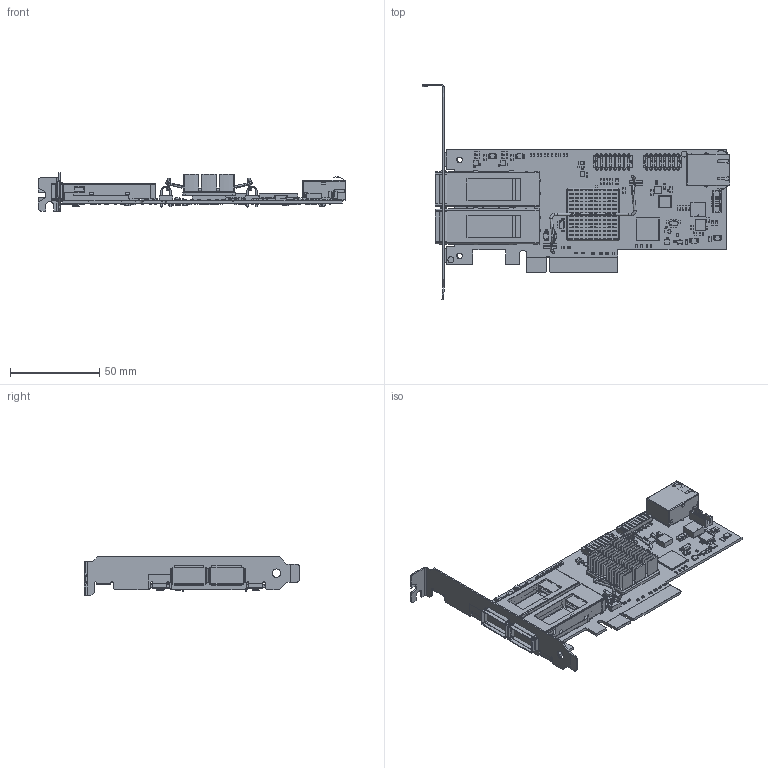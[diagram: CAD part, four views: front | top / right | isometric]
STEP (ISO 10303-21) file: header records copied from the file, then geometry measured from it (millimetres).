
FILE_DESCRIPTION(/* description */ ('PCB Design'),/* implementation_level */ '2;1');
FILE_NAME(/* name */ 'H18_32_2022-04-21',/* time_stamp */ '2022-04-21T10:49:21+03:00',/* author */ (''),/* organization */ (''),/* preprocessor_version */ 'ST-DEVELOPER v16',/* originating_system */ 'allegro_17.2S068',/* authorisation */ '');
FILE_SCHEMA (('AUTOMOTIVE_DESIGN { 1 0 10303 214 3 1 1 }'));
Products named in the file (118): H18_32_2022-04-21; BOARD_OUTLINE; COMPONENTS; OSCCC210P320X250X85-6N; ST1S41PUR; IHLP3232; CON-RJ45-L829-1B1T-43; HS_ANC-D057; FS1-R38-20XX-PLUSCAGE; IHLP2525; CON_3220-10-0300-00; CTS-SMD16; L1206; BGA216C80P15X15_1300X1300X110; SC-70-3; HS_UB30-12B; PCIE_LOW_PROFILE; CON-PCIE-X8-EDGE; SOT-23-3; QFN50P400X400X85-24EP1; R1206; VSOP50P490X110-10N; VSON65P300X300X100-8EP1; SOT89-5; OSCCC210P320X250X85N; TSOP65P490X110-8N; FAN23SV70A; LITEON-LED0603; CC1206; CC0402; R0402; R0603; CC0603; BGA324C100P18X18_1900X1900X270; CAP0402_24; RES0402_24; PCB-FD; Cube003; Cube; product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
Assembly tree (441 placements, depth 5):
  H18_32_2022-04-21
    BOARD_OUTLINE
    COMPONENTS
      OSCCC210P320X250X85-6N
        OSCCC210P320X250X85N
          Cube003
      ST1S41PUR
        ST1S41PUR
          Cube
      IHLP3232
        product
      CON-RJ45-L829-1B1T-43
        Part
          CON-RJ45-RJMG2012211A0FR
      HS_ANC-D057  x2
      FS1-R38-20XX-PLUSCAGE  x2
        FS1-R38-20XX-PLUSCAGE_S
          M_U90_A111_1001_REVG002
          M_FS1_R38_2000_REVG002
      IHLP2525
        ASSEMBLY
          Fillet
          Rectangle
          Extrude
      CON_3220-10-0300-00
        CON_3220-10-0300-00
          801-2195-10-K
          2195SM-PIN
          2195SM-PIN001
          2195SM-PIN002
          2195SM-PIN003
          2195SM-PIN004
          2195SM-PIN005
          2195SM-PIN006
          2195SM-PIN007
          2195SM-PIN008
          2195SM-PIN009
      CTS-SMD16  x2
        CTS-SMD16
          219-8LPST
      L1206  x10
        L1206
          Cube
          Cube001
          Cube002
      BGA216C80P15X15_1300X1300X110
        ASSEMBLY
          BGA216C80P15X15_1300X1300X110
      SC-70-3
        SC-70-3
          COMPOUND001
      HS_UB30-12B
        HS_ub30-12
          ub30-12
          anchor
          anchor001
          Cut_(Solid)
          Cut003_(Solid)
          Cut001_(Solid)
      PCIE_LOW_PROFILE
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Bounding box: 172.65 x 120.87 x 21.59 mm (x, y, z)
Volume: 14716.2 mm3; surface area: 60162.4 mm2
Topology: 1206 solids, 1773 shells, 12965 faces, 36480 edges, 41416 vertices
Faces by surface type: plane 9415, bspline 1985, cylinder 1119, revolution 366, sphere 60, torus 16, cone 4
Full cylindrical faces by diameter (mm): 0.166 x2, 0.408 x1
Entity records: 275252 total; most frequent: CARTESIAN_POINT 75963, DIRECTION 32453, ORIENTED_EDGE 20866, VECTOR 20163, LINE 20163, PCURVE 14054, DEFINITIONAL_REPRESENTATION 14054, EDGE_CURVE 11353
